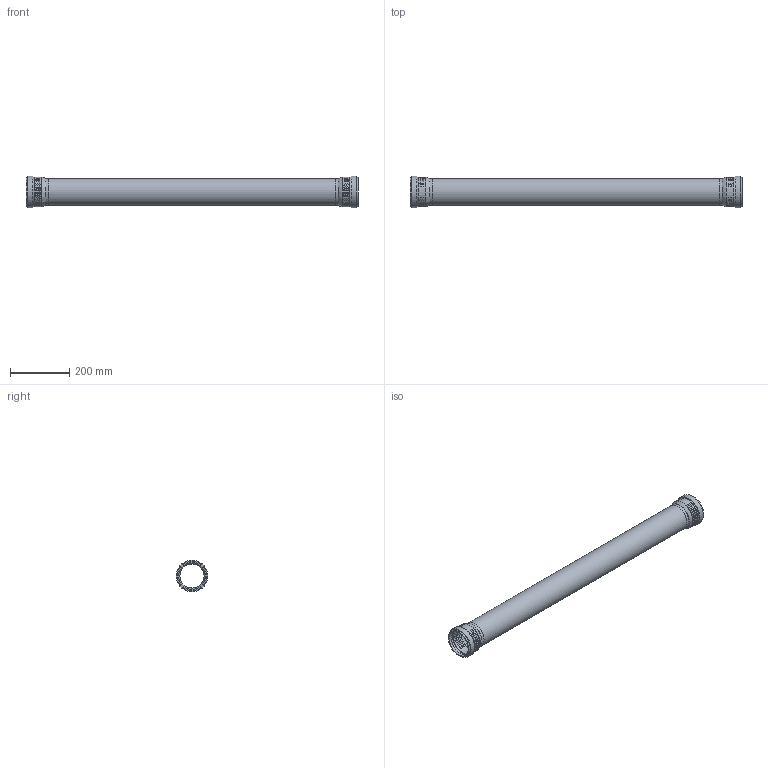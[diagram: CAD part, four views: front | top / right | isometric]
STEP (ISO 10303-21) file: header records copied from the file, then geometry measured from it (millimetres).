
FILE_DESCRIPTION(/* description */ (''),/* implementation_level */ '2;1');
FILE_NAME(/* name */ 'H:\Geberit-Teile\Export\PP_Rohr 2 Muffen_TEST\stp\393411.stp',/* time_stamp */ '2017-02-13T17:10:50+01:00',/* author */ ('seihe2'),/* organization */ (''),/* preprocessor_version */ 'ST-DEVELOPER v15.2',/* originating_system */ 'Autodesk Inventor 2014',/* authorisation */ '');
FILE_SCHEMA (('AUTOMOTIVE_DESIGN { 1 0 10303 214 3 1 1 }'));
Length unit declared in the file: millimetre
Products named in the file (1): 393411
Bounding box: 1122 x 107 x 107 mm (x, y, z)
Volume: 1349720.2 mm3; surface area: 647725.7 mm2
Topology: 3 solids, 3 shells, 70 faces, 152 edges, 106 vertices
Faces by surface type: torus 34, cylinder 18, plane 14, bspline 2, cone 2
Full cylindrical faces by diameter (mm): 81.6 x3, 90.2 x3, 91 x2, 93 x2, 98.8 x2, 100 x2, 100.8 x2, 107 x2
Entity records: 4140 total; most frequent: CARTESIAN_POINT 2721, ORIENTED_EDGE 236, DIRECTION 234, EDGE_LOOP 126, EDGE_CURVE 118, AXIS2_PLACEMENT_3D 117, VERTEX_POINT 104, STYLED_ITEM 73
